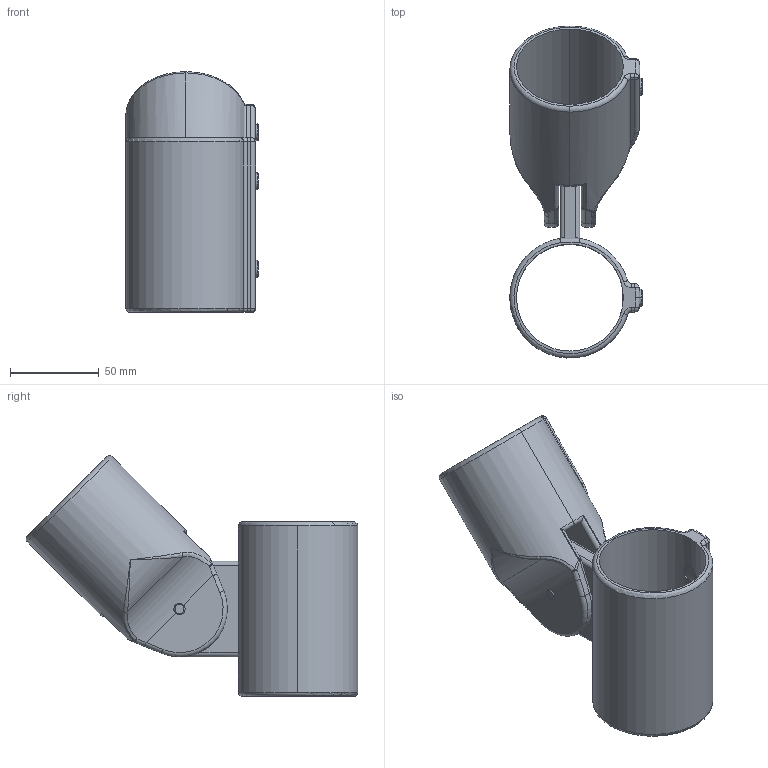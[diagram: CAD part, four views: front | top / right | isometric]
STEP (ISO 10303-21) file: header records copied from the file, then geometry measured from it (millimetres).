
FILE_DESCRIPTION(/* description */ ('(C) Elphel, Inc. 2012. Licensed under CERN OHL v.1.1 or later, see http://ohwr.org/cernohl'),/* implementation_level */ '2;1');
FILE_NAME(/* name */ '0353-80-09',/* time_stamp */ '2012-06-10T22:53:15-06:00',/* author */ (''),/* organization */ ('Elphel, Inc'),/* preprocessor_version */ 'ST-DEVELOPER v12',/* originating_system */ 'VariCAD 2012-1.04; kernel version (20100102)',/* authorisation */ '');
FILE_SCHEMA (('AUTOMOTIVE_DESIGN'));
Length unit declared in the file: millimetre
Products named in the file (1): Part
Bounding box: 74.79 x 187.32 x 135.89 mm (x, y, z)
Volume: 236131.7 mm3; surface area: 94409.4 mm2
Topology: 3 solids, 3 shells, 227 faces, 548 edges, 320 vertices
Faces by surface type: cylinder 86, plane 53, torus 31, bspline 26, sphere 21, cone 10
Entity records: 10258 total; most frequent: CARTESIAN_POINT 5250, ORIENTED_EDGE 1074, DIRECTION 983, EDGE_CURVE 537, AXIS2_PLACEMENT_3D 392, VERTEX_POINT 320, EDGE_LOOP 241, ADVANCED_FACE 227
